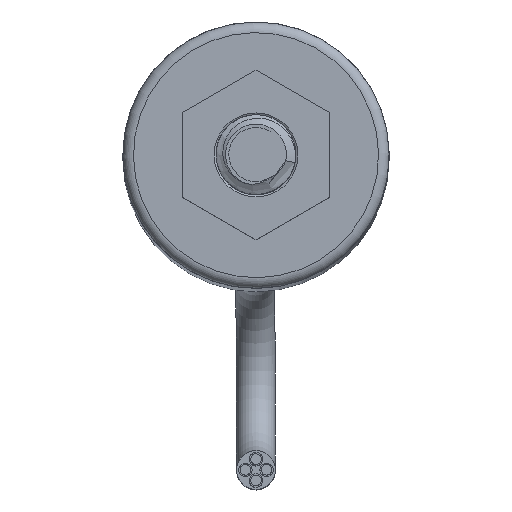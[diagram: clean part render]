
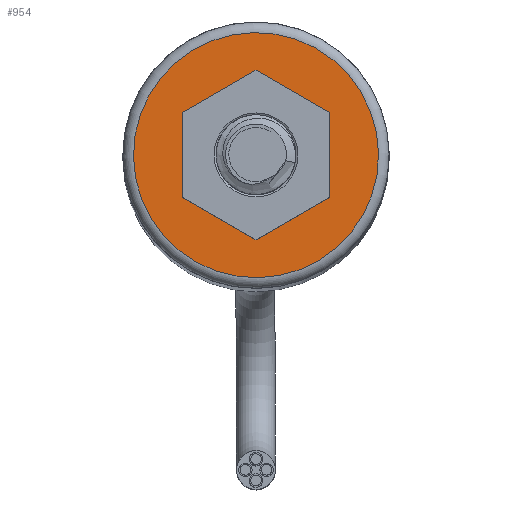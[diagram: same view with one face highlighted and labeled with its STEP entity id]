
A CAD part, top view. The second image highlights one B-rep face of the part: STEP entity #954.
In plain terms, the highlighted planar face has unit normal (0, 0, 1).
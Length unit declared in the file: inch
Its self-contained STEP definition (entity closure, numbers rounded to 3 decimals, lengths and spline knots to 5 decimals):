
#69=FACE_BOUND('',#190,.T.);
#87=PLANE('',#1193);
#123=FACE_OUTER_BOUND('',#189,.T.);
#189=EDGE_LOOP('',(#642));
#190=EDGE_LOOP('',(#643));
#367=CIRCLE('',#1188,0.23);
#371=CIRCLE('',#1194,0.11);
#424=VERTEX_POINT('',#1625);
#427=VERTEX_POINT('',#1635);
#506=EDGE_CURVE('',#424,#424,#367,.T.);
#511=EDGE_CURVE('',#427,#427,#371,.T.);
#642=ORIENTED_EDGE('',*,*,#506,.F.);
#643=ORIENTED_EDGE('',*,*,#511,.T.);
#954=ADVANCED_FACE('',(#123,#69),#87,.T.);
#1188=AXIS2_PLACEMENT_3D('',#1626,#1328,#1329);
#1193=AXIS2_PLACEMENT_3D('',#1634,#1339,#1340);
#1194=AXIS2_PLACEMENT_3D('',#1636,#1341,#1342);
#1328=DIRECTION('center_axis',(0.,0.,
-1.));
#1329=DIRECTION('ref_axis',(0.155,0.988,0.));
#1339=DIRECTION('center_axis',(0.,0.,
1.));
#1340=DIRECTION('ref_axis',(-0.155,-0.988,0.));
#1341=DIRECTION('center_axis',(0.,0.,
-1.));
#1342=DIRECTION('ref_axis',(-0.155,-0.988,0.));
#1625=CARTESIAN_POINT('',(0.03563,0.22722,0.03));
#1626=CARTESIAN_POINT('Origin',(0.,0.,
0.03));
#1634=CARTESIAN_POINT('Origin',(0.,0.,
0.03));
#1635=CARTESIAN_POINT('',(0.01704,0.10867,0.03));
#1636=CARTESIAN_POINT('Origin',(0.,0.,
0.03));
